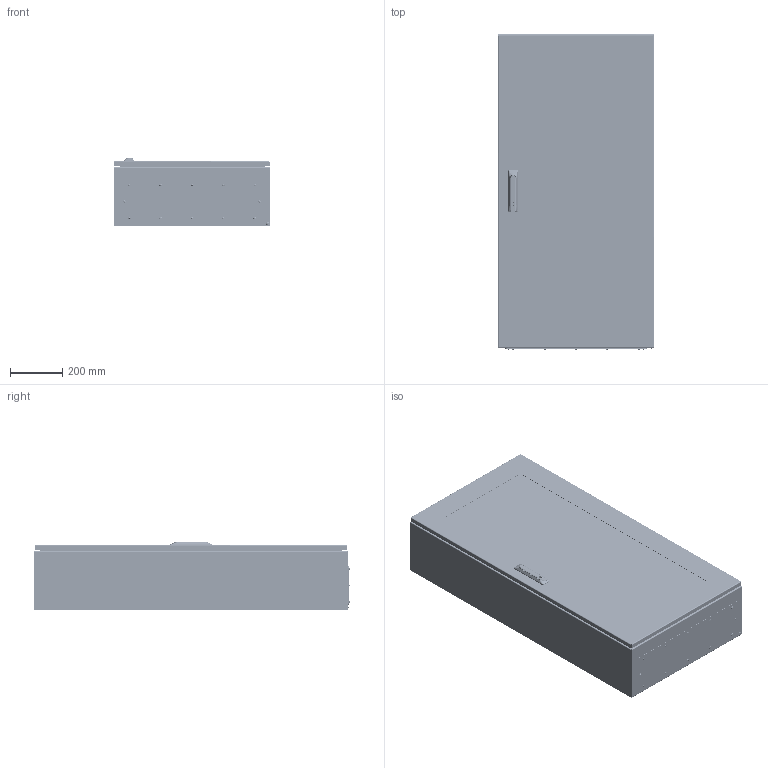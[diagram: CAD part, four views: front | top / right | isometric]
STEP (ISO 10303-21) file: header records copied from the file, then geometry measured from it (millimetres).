
FILE_DESCRIPTION (( 'STEP AP214' ), '1' );
FILE_NAME ('CCV 120.60.25.STEP', '2025-09-18T13:51:31', ( '' ), ( '' ), 'SwSTEP 2.0', 'SolidWorks 2019', '' );
FILE_SCHEMA (( 'AUTOMOTIVE_DESIGN' ));
Length unit declared in the file: millimetre
Products named in the file (34): Ðèãåëü S1B4500 (ïëîñêèé); Essentra_d9.3_055009300003; Øïèëüêà çàçåìëåíèÿ Ì6õ17,5_˜¯¨«ìª  § §¥¬«¥­¨ï Œ6å17,5; Ïåòëÿ KIT_Ìîäóëü_êîðïóñíàÿ ÷àñòü â ñáîðå; CCV X.Y.02.002 栺樏鋋_CCV 120.60; pan head cross recess screw_din_DIN EN ISO 7045 - M6 x 16 - Z - 16N; CCV 120.60.25; ÇÀÌÎÊ-ÐÓ×ÊÀ 1413-D53-SS_‡ ªàëâ; Âñòàâêà ðèãåëÿ S1B4500; CCV X.Y.02.000蚜 拟屦黖CCV 120.60; hex flange nut_din_Hexagon Flange Nut DIN 6923 - M8 - N; KIT_Çàæèìíîå êîëüöî_ïîëèîêñèìåòèëåí_ô5_EMKA 1031-U16; Ïåòëÿ KIT_Ìîäóëü_êîðïóñíàÿ ÷àñòü; Essentra_d6,3_1287228; plain washer grade a_din_Washer DIN 125 - A 5.3; CCV X.Y.02.001 拟屦黖CCV 120.60; Øïèëüêà Ì6õ13; MPC X.Y Ïàíåëü ìîíòàæíàÿ_MPC 120.60 (2,5); KIT_Øòèôò_ô5_Ìîäóëü; RG 001-2 Äåðæàòåëü ïëîñêîé òÿãè (ïîëèàìèä); CCS X.Y.Z.01.000捘 扻豵鵨_CCS 120.60.25; Ãàéêà Ì8 DIN 934; CCS X.Y.Z.01.001 扻豵鵨_CCS 120.60.25; hex flange nut_din_Hexagon Flange Nut DIN 6923 - M6 - N; Øïèëüêà çàçåìëåíèÿ Ì6õ17,5_˜¯¨«ìª  § §¥¬«¥­¨ï Œ6å17,5 á ª®«¯ çª®¬; Çàìîê MS8035-1 (1413-D53-RAL7035)_Žâªàëâ; pan head cross recess screw_din_DIN EN ISO 7045 - M5 x 6 - Z - 6N; Òÿãà ïëîñêàÿ LG006 A=16ìì_120 (‡ ¬®ª-àãçª  1413); Âèíò ðåçüáîâûäàâëèâàþùèé ñ ïîëóïîòàéíîé ãîëîâêîé Ì5õ12; Ïåòëÿ ïðèâàðíàÿ ÷àñòü; Øïèëüêà Ì8õ25; PKV Y.15 相礤朦 赅徨朦眍泐 忖钿郷PKV 60(15)
Assembly tree (94 placements, depth 3):
  CCV 120.60.25
    CCS X.Y.Z.01.000捘 扻豵鵨_CCS 120.60.25
      CCS X.Y.Z.01.001 扻豵鵨_CCS 120.60.25
      Øïèëüêà çàçåìëåíèÿ Ì6õ17,5_˜¯¨«ìª  § §¥¬«¥­¨ï Œ6å17,5  x4
      Øïèëüêà Ì8õ25  x6
    Ïåòëÿ KIT_Ìîäóëü_êîðïóñíàÿ ÷àñòü â ñáîðå
      Ïåòëÿ KIT_Ìîäóëü_êîðïóñíàÿ ÷àñòü
      KIT_Øòèôò_ô5_Ìîäóëü
      KIT_Çàæèìíîå êîëüöî_ïîëèîêñèìåòèëåí_ô5_EMKA 1031-U16
    Ïåòëÿ KIT_Ìîäóëü_êîðïóñíàÿ ÷àñòü â ñáîðå
      Ïåòëÿ KIT_Ìîäóëü_êîðïóñíàÿ ÷àñòü
      KIT_Øòèôò_ô5_Ìîäóëü
      KIT_Çàæèìíîå êîëüöî_ïîëèîêñèìåòèëåí_ô5_EMKA 1031-U16
    Ïåòëÿ KIT_Ìîäóëü_êîðïóñíàÿ ÷àñòü â ñáîðå
      Ïåòëÿ KIT_Ìîäóëü_êîðïóñíàÿ ÷àñòü
      KIT_Øòèôò_ô5_Ìîäóëü
      KIT_Çàæèìíîå êîëüöî_ïîëèîêñèìåòèëåí_ô5_EMKA 1031-U16
    CCV X.Y.02.000蚜 拟屦黖CCV 120.60
      CCV X.Y.02.001 拟屦黖CCV 120.60
      Øïèëüêà çàçåìëåíèÿ Ì6õ17,5_˜¯¨«ìª  § §¥¬«¥­¨ï Œ6å17,5 á ª®«¯ çª®¬
      Øïèëüêà Ì6õ13  x4
      CCV X.Y.02.002 栺樏鋋_CCV 120.60
      Ïåòëÿ ïðèâàðíàÿ ÷àñòü  x3
    MPC X.Y Ïàíåëü ìîíòàæíàÿ_MPC 120.60 (2,5)
    PKV Y.15 相礤朦 赅徨朦眍泐 忖钿郷PKV 60(15)
    pan head cross recess screw_din_DIN EN ISO 7045 - M5 x 6 - Z - 6N  x3
    plain washer grade a_din_Washer DIN 125 - A 5.3  x3
    Ãàéêà Ì8 DIN 934  x6
    hex flange nut_din_Hexagon Flange Nut DIN 6923 - M8 - N  x6
    Âèíò ðåçüáîâûäàâëèâàþùèé ñ ïîëóïîòàéíîé ãîëîâêîé Ì5õ12  x14
    Essentra_d9.3_055009300003
    Essentra_d6,3_1287228  x2
    ÇÀÌÎÊ-ÐÓ×ÊÀ 1413-D53-SS_‡ ªàëâ
      Çàìîê MS8035-1 (1413-D53-RAL7035)_Žâªàëâ
      Ðèãåëü S1B4500 (ïëîñêèé)
      Âñòàâêà ðèãåëÿ S1B4500
    RG 001-2 Äåðæàòåëü ïëîñêîé òÿãè (ïîëèàìèä)  x4
    Òÿãà ïëîñêàÿ LG006 A=16ìì_120 (‡ ¬®ª-àãçª  1413)  x2
    hex flange nut_din_Hexagon Flange Nut DIN 6923 - M6 - N  x8
    pan head cross recess screw_din_DIN EN ISO 7045 - M6 x 16 - Z - 16N  x4
Bounding box: 600 x 1206.62 x 262.94 mm (x, y, z)
Volume: 6697233.4 mm3; surface area: 6670152.4 mm2
Topology: 122 solids, 122 shells, 8610 faces, 21329 edges, 12879 vertices
Faces by surface type: cylinder 3261, plane 2410, bspline 1020, torus 763, cone 704, sphere 452
Entity records: 247843 total; most frequent: CARTESIAN_POINT 118707, ORIENTED_EDGE 28086, DIRECTION 24566, EDGE_CURVE 14043, AXIS2_PLACEMENT_3D 9460, VERTEX_POINT 8617, EDGE_LOOP 5936, LINE 5646
